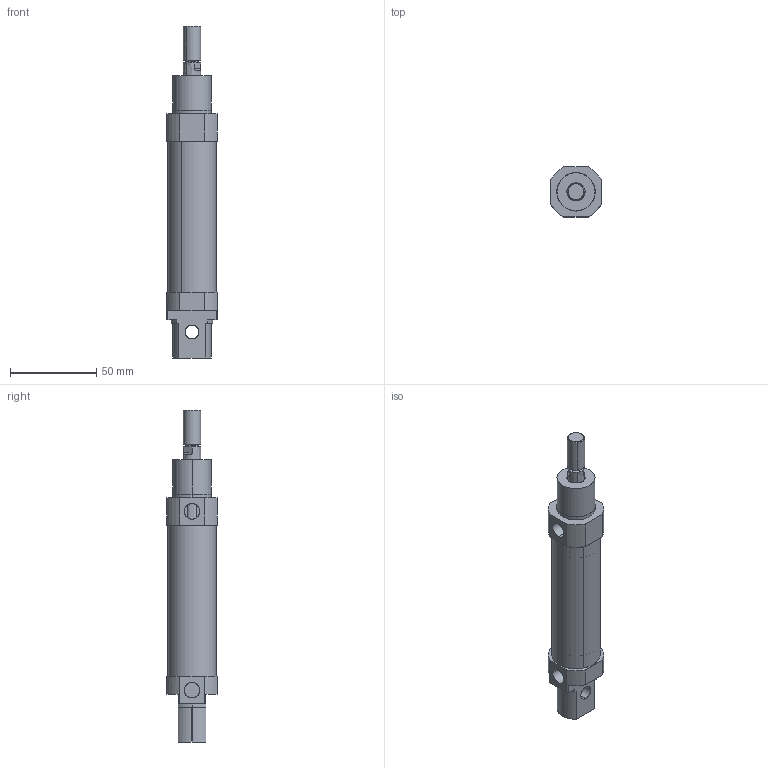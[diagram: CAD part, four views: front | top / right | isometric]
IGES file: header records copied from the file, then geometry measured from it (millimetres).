
Start section: SolidWorks IGES file using analytic representation for surfaces
Global section: file name: D:\ARICA 3D ÇÝZÝMLER\3D IGES\MA-CR-S KROM SERÝSÝ\MA-CR-S 25\MA-CR-S-25x50CYLINDER.IGS; native system: SolidWorks 2013; preprocessor: SolidWorks 2013; author: user; date: 161123.161202; units: millimetre
Bounding box: 29 x 29 x 192.2 mm (x, y, z)
Surface area: 34654.4 mm2 (no closed solid volume)
Topology: 0 solids, 0 shells, 94 faces, 1588 edges, 1588 vertices
Faces by surface type: revolution 57, bspline 37
